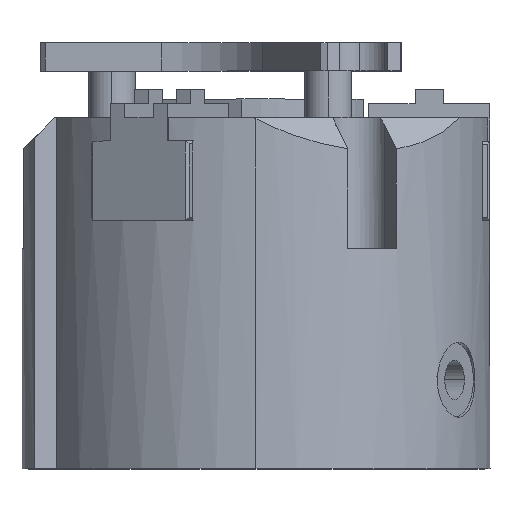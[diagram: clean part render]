
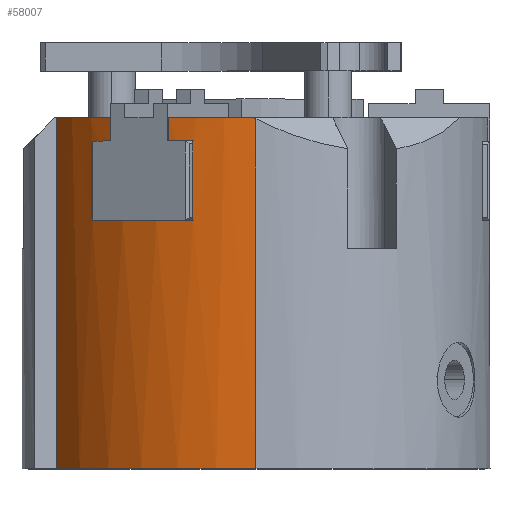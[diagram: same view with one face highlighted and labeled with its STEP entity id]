
A CAD part, top view. The second image highlights one B-rep face of the part: STEP entity #58007.
In plain terms, the highlighted cylindrical face has radius 25 mm (diameter 50 mm), a partial arc.
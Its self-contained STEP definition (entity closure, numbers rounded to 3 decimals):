
#887 = ORIENTED_EDGE ( 'NONE', *, *, #25994, .T. ) ;
#1181 = DIRECTION ( 'NONE',  ( 0., -1., 0. ) ) ;
#1416 = CIRCLE ( 'NONE', #61853, 25. ) ;
#1461 = CARTESIAN_POINT ( 'NONE',  ( -9.346, 37.5, 23.187 ) ) ;
#1966 = DIRECTION ( 'NONE',  ( 0., 1., 0. ) ) ;
#2220 = VERTEX_POINT ( 'NONE', #73450 ) ;
#2562 = CIRCLE ( 'NONE', #53754, 25. ) ;
#2574 = VECTOR ( 'NONE', #14212, 1000. ) ;
#3384 = VERTEX_POINT ( 'NONE', #7765 ) ;
#4060 = DIRECTION ( 'NONE',  ( 0., 1., 0. ) ) ;
#4646 = CIRCLE ( 'NONE', #50191, 25. ) ;
#5980 = CARTESIAN_POINT ( 'NONE',  ( -0.298, 37.5, 24.998 ) ) ;
#6084 = VECTOR ( 'NONE', #13617, 1000. ) ;
#7765 = CARTESIAN_POINT ( 'NONE',  ( 0., 37.349, 25. ) ) ;
#8721 = DIRECTION ( 'NONE',  ( 0., 1., 0. ) ) ;
#9919 = VECTOR ( 'NONE', #40951, 1000. ) ;
#10941 = CARTESIAN_POINT ( 'NONE',  ( 0., 35., 0. ) ) ;
#11230 = EDGE_CURVE ( 'NONE', #48283, #47110, #4646, .T. ) ;
#12358 = AXIS2_PLACEMENT_3D ( 'NONE', #33372, #27681, #67379 ) ;
#13131 = ORIENTED_EDGE ( 'NONE', *, *, #35219, .T. ) ;
#13617 = DIRECTION ( 'NONE',  ( 0., -1., 0. ) ) ;
#14195 = CARTESIAN_POINT ( 'NONE',  ( -21.358, 37.5, 12.994 ) ) ;
#14212 = DIRECTION ( 'NONE',  ( 0., -1., 0. ) ) ;
#14493 = LINE ( 'NONE', #69229, #58032 ) ;
#14655 = AXIS2_PLACEMENT_3D ( 'NONE', #20025, #59761, #25760 ) ;
#15295 = AXIS2_PLACEMENT_3D ( 'NONE', #30694, #70425, #36395 ) ;
#15622 = CARTESIAN_POINT ( 'NONE',  ( 0., 37.5, 0. ) ) ;
#15861 = LINE ( 'NONE', #53929, #2574 ) ;
#16418 = CARTESIAN_POINT ( 'NONE',  ( 0., 37.349, 25. ) ) ;
#16657 = DIRECTION ( 'NONE',  ( 0., 0., -1. ) ) ;
#17751 = VERTEX_POINT ( 'NONE', #73269 ) ;
#17956 = ORIENTED_EDGE ( 'NONE', *, *, #50620, .F. ) ;
#18172 = DIRECTION ( 'NONE',  ( 0., 1., 0. ) ) ;
#20025 = CARTESIAN_POINT ( 'NONE',  ( 0., 35., 0. ) ) ;
#21363 = DIRECTION ( 'NONE',  ( 0., 0., -1. ) ) ;
#22593 = EDGE_CURVE ( 'NONE', #37030, #48283, #62970, .T. ) ;
#23808 = VERTEX_POINT ( 'NONE', #57449 ) ;
#25760 = DIRECTION ( 'NONE',  ( 0., 0., -1. ) ) ;
#25994 = EDGE_CURVE ( 'NONE', #63713, #42081, #2562, .T. ) ;
#27025 = AXIS2_PLACEMENT_3D ( 'NONE', #52204, #18172, #57898 ) ;
#27142 = EDGE_CURVE ( 'NONE', #29898, #63713, #31864, .T. ) ;
#27681 = DIRECTION ( 'NONE',  ( 0., -1., 0. ) ) ;
#27769 = ORIENTED_EDGE ( 'NONE', *, *, #11230, .T. ) ;
#27957 = CIRCLE ( 'NONE', #15295, 25. ) ;
#28308 = CIRCLE ( 'NONE', #14655, 25. ) ;
#28627 = CARTESIAN_POINT ( 'NONE',  ( -0.099, 37.399, 25. ) ) ;
#29395 = ORIENTED_EDGE ( 'NONE', *, *, #36875, .T. ) ;
#29572 = LINE ( 'NONE', #72160, #57986 ) ;
#29898 = VERTEX_POINT ( 'NONE', #66212 ) ;
#30694 = CARTESIAN_POINT ( 'NONE',  ( 0., 26.5, 0. ) ) ;
#31864 = LINE ( 'NONE', #48451, #62047 ) ;
#33334 = CARTESIAN_POINT ( 'NONE',  ( 0., 0., 25. ) ) ;
#33372 = CARTESIAN_POINT ( 'NONE',  ( 0., 37.5, 0. ) ) ;
#35219 = EDGE_CURVE ( 'NONE', #2220, #23808, #29572, .T. ) ;
#35980 = CARTESIAN_POINT ( 'NONE',  ( -9.346, 37.5, 23.187 ) ) ;
#36011 = CARTESIAN_POINT ( 'NONE',  ( 0., 37.5, 0. ) ) ;
#36090 = VERTEX_POINT ( 'NONE', #55480 ) ;
#36395 = DIRECTION ( 'NONE',  ( 0., 0., -1. ) ) ;
#36875 = EDGE_CURVE ( 'NONE', #42081, #36090, #41960, .T. ) ;
#37030 = VERTEX_POINT ( 'NONE', #1461 ) ;
#37231 = ORIENTED_EDGE ( 'NONE', *, *, #22593, .T. ) ;
#40026 = CARTESIAN_POINT ( 'NONE',  ( -0.199, 37.449, 24.999 ) ) ;
#40278 = VERTEX_POINT ( 'NONE', #65931 ) ;
#40377 = ORIENTED_EDGE ( 'NONE', *, *, #58707, .F. ) ;
#40951 = DIRECTION ( 'NONE',  ( 0., -1., 0. ) ) ;
#41687 = DIRECTION ( 'NONE',  ( 0., 0., -1. ) ) ;
#41960 = LINE ( 'NONE', #46183, #9919 ) ;
#42081 = VERTEX_POINT ( 'NONE', #14195 ) ;
#46183 = CARTESIAN_POINT ( 'NONE',  ( -21.358, 37.5, 12.994 ) ) ;
#47110 = VERTEX_POINT ( 'NONE', #48456 ) ;
#48283 = VERTEX_POINT ( 'NONE', #69517 ) ;
#48451 = CARTESIAN_POINT ( 'NONE',  ( -15.408, 37.5, 19.687 ) ) ;
#48456 = CARTESIAN_POINT ( 'NONE',  ( -6.74, 35., 24.074 ) ) ;
#48471 = ORIENTED_EDGE ( 'NONE', *, *, #51826, .T. ) ;
#49224 = EDGE_CURVE ( 'NONE', #36090, #63683, #69271, .T. ) ;
#49635 = ORIENTED_EDGE ( 'NONE', *, *, #65790, .T. ) ;
#50191 = AXIS2_PLACEMENT_3D ( 'NONE', #10941, #50682, #16657 ) ;
#50620 = EDGE_CURVE ( 'NONE', #3384, #63683, #15861, .T. ) ;
#50682 = DIRECTION ( 'NONE',  ( 0., 1., 0. ) ) ;
#50696 = CARTESIAN_POINT ( 'NONE',  ( -15.408, 37.5, 19.687 ) ) ;
#51826 = EDGE_CURVE ( 'NONE', #23808, #29898, #28308, .T. ) ;
#52094 = CYLINDRICAL_SURFACE ( 'NONE', #12358, 25. ) ;
#52204 = CARTESIAN_POINT ( 'NONE',  ( 0., 0., 0. ) ) ;
#53754 = AXIS2_PLACEMENT_3D ( 'NONE', #15622, #55366, #21363 ) ;
#53929 = CARTESIAN_POINT ( 'NONE',  ( 0., 37.5, 25. ) ) ;
#55366 = DIRECTION ( 'NONE',  ( 0., -1., 0. ) ) ;
#55480 = CARTESIAN_POINT ( 'NONE',  ( -21.358, 0., 12.994 ) ) ;
#56016 = ORIENTED_EDGE ( 'NONE', *, *, #49224, .T. ) ;
#57449 = CARTESIAN_POINT ( 'NONE',  ( -17.479, 35., 17.874 ) ) ;
#57898 = DIRECTION ( 'NONE',  ( 0., 0., -1. ) ) ;
#57986 = VECTOR ( 'NONE', #4060, 1000. ) ;
#58007 = ADVANCED_FACE ( 'NONE', ( #67177 ), #52094, .T. ) ;
#58032 = VECTOR ( 'NONE', #1181, 1000. ) ;
#58266 = ORIENTED_EDGE ( 'NONE', *, *, #27142, .T. ) ;
#58707 = EDGE_CURVE ( 'NONE', #37030, #17751, #1416, .T. ) ;
#59761 = DIRECTION ( 'NONE',  ( 0., 1., 0. ) ) ;
#61853 = AXIS2_PLACEMENT_3D ( 'NONE', #36011, #1966, #41687 ) ;
#62047 = VECTOR ( 'NONE', #8721, 1000. ) ;
#62970 = LINE ( 'NONE', #35980, #6084 ) ;
#63497 = EDGE_CURVE ( 'NONE', #40278, #2220, #27957, .T. ) ;
#63683 = VERTEX_POINT ( 'NONE', #33334 ) ;
#63713 = VERTEX_POINT ( 'NONE', #50696 ) ;
#64038 = ORIENTED_EDGE ( 'NONE', *, *, #68012, .T. ) ;
#65790 = EDGE_CURVE ( 'NONE', #3384, #17751, #66324, .T. ) ;
#65850 = EDGE_LOOP ( 'NONE', ( #17956, #49635, #40377, #37231, #27769, #64038, #68470, #13131, #48471, #58266, #887, #29395, #56016 ) ) ;
#65931 = CARTESIAN_POINT ( 'NONE',  ( -6.74, 26.5, 24.074 ) ) ;
#66212 = CARTESIAN_POINT ( 'NONE',  ( -15.408, 35., 19.687 ) ) ;
#66324 =( BOUNDED_CURVE ( )  B_SPLINE_CURVE ( 3, ( #16418, #28627, #40026, #5980 ),
 .UNSPECIFIED., .F., .F. ) 
 B_SPLINE_CURVE_WITH_KNOTS ( ( 4, 4 ),
 ( 0.524, 0.536 ),
 .UNSPECIFIED. ) 
 CURVE ( )  GEOMETRIC_REPRESENTATION_ITEM ( )  RATIONAL_B_SPLINE_CURVE ( ( 1., 1., 1., 1. ) ) 
 REPRESENTATION_ITEM ( '' )  );
#67177 = FACE_OUTER_BOUND ( 'NONE', #65850, .T. ) ;
#67379 = DIRECTION ( 'NONE',  ( 0., 0., -1. ) ) ;
#68012 = EDGE_CURVE ( 'NONE', #47110, #40278, #14493, .T. ) ;
#68470 = ORIENTED_EDGE ( 'NONE', *, *, #63497, .T. ) ;
#69229 = CARTESIAN_POINT ( 'NONE',  ( -6.74, 37.5, 24.074 ) ) ;
#69271 = CIRCLE ( 'NONE', #27025, 25. ) ;
#69517 = CARTESIAN_POINT ( 'NONE',  ( -9.346, 35., 23.187 ) ) ;
#70425 = DIRECTION ( 'NONE',  ( 0., -1., 0. ) ) ;
#72160 = CARTESIAN_POINT ( 'NONE',  ( -17.479, 37.5, 17.874 ) ) ;
#73269 = CARTESIAN_POINT ( 'NONE',  ( -0.298, 37.5, 24.998 ) ) ;
#73450 = CARTESIAN_POINT ( 'NONE',  ( -17.479, 26.5, 17.874 ) ) ;
